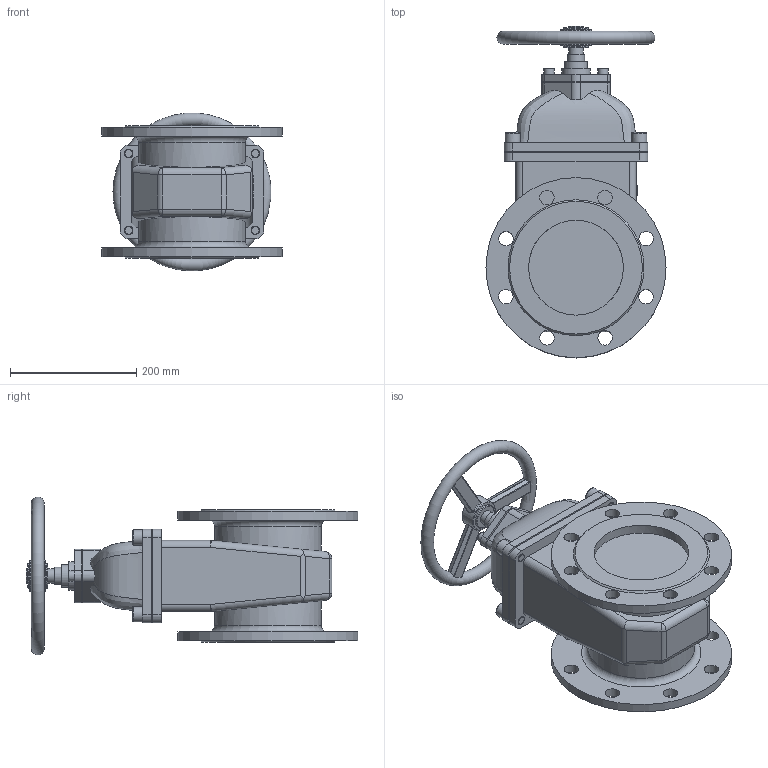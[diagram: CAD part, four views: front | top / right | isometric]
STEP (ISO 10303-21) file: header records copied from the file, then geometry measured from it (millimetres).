
FILE_DESCRIPTION(('STEP AP242'), '1');
FILE_NAME('GVWN1414N-2W-F-S blue Çàäâèæêà êëèíîâàÿ ñ íåâèäâèæíûì øòîêîì DN.ru Äó150 Ðó10-16', '', ('UNSPECIFIED'), ('UNSPECIFIED'), 'C3D Converter', 'C3D Toolkit', '');
FILE_SCHEMA(('AP242_MANAGED_MODEL_BASED_3D_ENGINEERING_MIM_LF { 1 0 10303 442 1 1 4 }'));
Length unit declared in the file: millimetre
Products named in the file (1): GVWN1414N-2W-F-S blue
Bounding box: 285 x 525 x 249.63 mm (x, y, z)
Volume: 10944217.3 mm3; surface area: 638066.3 mm2
Topology: 1 solids, 1 shells, 359 faces, 907 edges, 577 vertices
Faces by surface type: plane 158, cylinder 97, bspline 38, extrusion 27, torus 19, cone 12, sphere 8
Full cylindrical faces by diameter (mm): 10 x2, 16 x6, 22.5 x1, 23 x16, 24 x4, 25 x1, 27 x1, 36 x1, 40 x2, 45 x2, 50 x1, 150 x2, 168.75 x2, 285 x2
Entity records: 21743 total; most frequent: CARTESIAN_POINT 11016, ORIENTED_EDGE 1642, DIRECTION 1316, EDGE_CURVE 821, VERTEX_POINT 568, EDGE_LOOP 511, AXIS2_PLACEMENT_3D 464, FACE_BOUND 399
